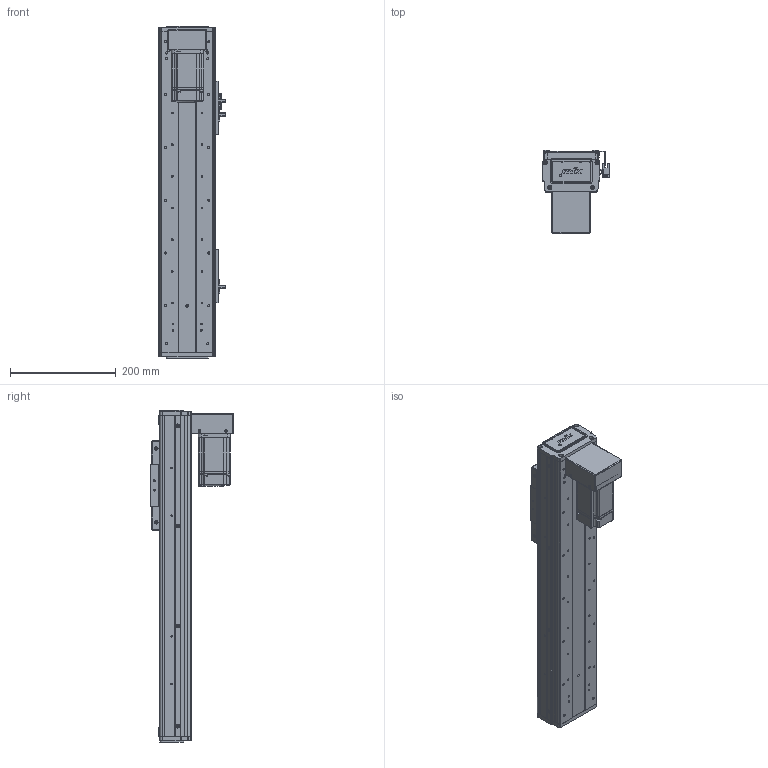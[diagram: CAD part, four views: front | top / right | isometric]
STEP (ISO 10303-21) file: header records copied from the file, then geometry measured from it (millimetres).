
FILE_DESCRIPTION (( 'STEP AP203' ), '1' );
FILE_NAME ('RY100FS-L1620-300-BK(15双轨).SLDASM_350.step', '2021-03-02T07:33:30', ( '盈信电脑' ), ( '东莞市道滘镇水果街19号' ), 'SwSTEP 2.0', 'SolidWorks 2012', '' );
FILE_SCHEMA (( 'CONFIG_CONTROL_DESIGN' ));
Length unit declared in the file: millimetre
Products named in the file (21): 滅袉蝶18-15; RY100FS-L1620-300-BK(15邧寢).SLDASM_350; 1; RY100FS-15邧寢狟殏萇儂啣; RY100FS-15双轨下折钢带安装板; RY100FS-15邧寢狟殏萇儂欶; 蚥薯蝶紫輸; 覜茼ん672; RY100F-詩湍揤踡輸; RY80俋离覜茼え; RY100FS-双轨螺母座(16丝杆）; RY100F-綴裔啣; RY100F-詩湍揤踡謫; 672嫖萇羲壽假蚾釱; RY100F-詩湍幗謫粣; RY100FS-双轨铝滑块(上板）; RY100F-滅鳥裔啣; 棠沺沭; RY100FS-300-BK15絳寢倰第菁釱_350; RY100FS-300-BK15絳寢倰第奻裔啣_350; RY100FS-300-BK15邧寢祥凄詩湍_350
Assembly tree (30 placements, depth 2):
  RY100FS-L1620-300-BK(15邧寢).SLDASM_350
    RY100FS-300-BK15絳寢倰第菁釱_350
    RY100FS-300-BK15絳寢倰第奻裔啣_350  x2
    RY100FS-300-BK15邧寢祥凄詩湍_350
    RY100FS-双轨铝滑块(上板）
    RY100F-滅鳥裔啣
    棠沺沭  x2
    RY100F-詩湍幗謫粣
    RY100F-詩湍揤踡謫  x2
    RY100F-綴裔啣  x2
    672嫖萇羲壽假蚾釱  x2
    RY80俋离覜茼え  x2
    覜茼ん672  x3
    RY100F-詩湍揤踡輸  x2
    RY100FS-双轨螺母座(16丝杆）
    RY100FS-15邧寢狟殏萇儂啣
    RY100FS-15邧寢狟殏萇儂欶
    蚥薯蝶紫輸
    RY100FS-15双轨下折钢带安装板
    滅袉蝶18-15  x2
    1
Bounding box: 126.2 x 158.5 x 629 mm (x, y, z)
Volume: 1831935 mm3; surface area: 738468.8 mm2
Topology: 30 solids, 30 shells, 2200 faces, 5967 edges, 3880 vertices
Faces by surface type: plane 1086, cylinder 946, cone 132, bspline 36
Entity records: 58792 total; most frequent: CARTESIAN_POINT 12023, DIRECTION 9284, ORIENTED_EDGE 9174, EDGE_CURVE 4587, AXIS2_PLACEMENT_3D 3249, VERTEX_POINT 3018, LINE 2786, VECTOR 2786
